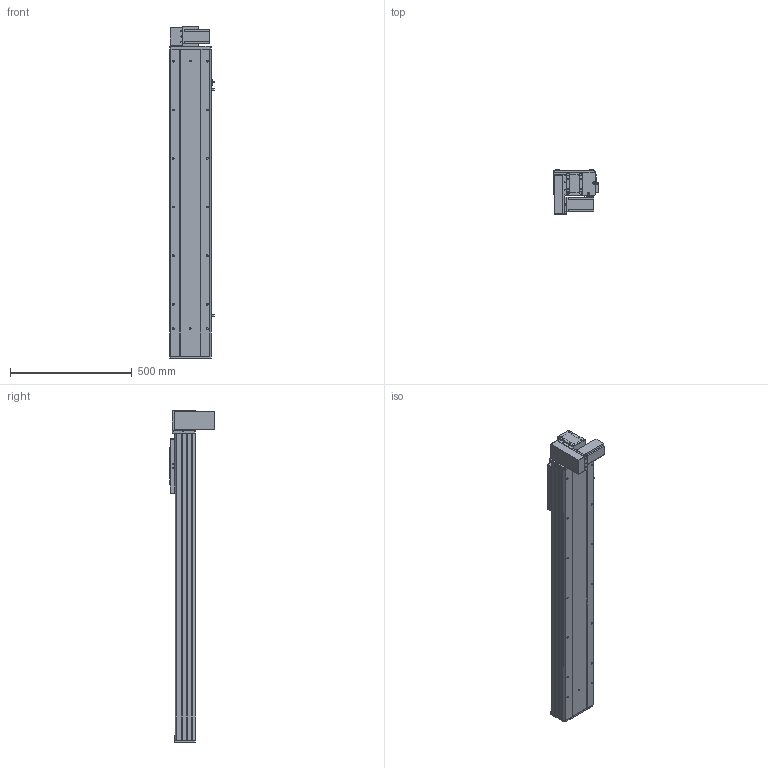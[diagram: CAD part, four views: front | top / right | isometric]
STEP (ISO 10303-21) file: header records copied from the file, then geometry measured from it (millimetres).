
FILE_DESCRIPTION (( 'STEP AP203' ), '1' );
FILE_NAME ('Y170CB-D105-S950-BM-P400W.STEP', '2020-02-20T06:24:29', ( '微软用户' ), ( '微软中国' ), 'SwSTEP 2.0', 'SolidWorks 2017', '' );
FILE_SCHEMA (( 'CONFIG_CONTROL_DESIGN' ));
Length unit declared in the file: millimetre
Products named in the file (18): 70CB-詩湍--; B-源倛裔啣; Y100-135俋离換覜ん--; 0B-萇儂楊擘啣; Y170CB-陔俋离換覜結え---; san松下电机400不带刹车----; Y1埴倛裔; 70CB-掛极-; 17B-耜蚾蟀諉啣----; --70CB --喘謫眊楊擘啣-; 00B-俋欶BM--163; 70CB--耜裔; 70CB-耜裔啣-; 70B喘謫眊----; 70C-雄赽釱-奻-; 70C--詩湍揤踡え-; Y170CB-D105-S950-BM-P400W; 0C--雄赽釱俋欶-170
Assembly tree (21 placements, depth 2):
  Y170CB-D105-S950-BM-P400W
    B-源倛裔啣
    0B-萇儂楊擘啣
    san松下电机400不带刹车----
    70CB-掛极-
    --70CB --喘謫眊楊擘啣-
    70CB-耜裔啣-  x2
    70C--詩湍揤踡え-  x2
    70CB--耜裔
    70C-雄赽釱-奻-
    0C--雄赽釱俋欶-170
    70CB-詩湍--
    Y100-135俋离換覜ん--  x3
    Y170CB-陔俋离換覜結え---
    Y1埴倛裔
    17B-耜蚾蟀諉啣----
    00B-俋欶BM--163
    70B喘謫眊----
Bounding box: 183.5 x 184 x 1366 mm (x, y, z)
Volume: 6342373.9 mm3; surface area: 2272207 mm2
Topology: 21 solids, 21 shells, 1007 faces, 2693 edges, 1786 vertices
Faces by surface type: cylinder 521, plane 462, cone 24
Entity records: 32036 total; most frequent: CARTESIAN_POINT 5856, DIRECTION 5210, ORIENTED_EDGE 4868, EDGE_CURVE 2434, AXIS2_PLACEMENT_3D 1908, VERTEX_POINT 1616, LINE 1394, VECTOR 1394
